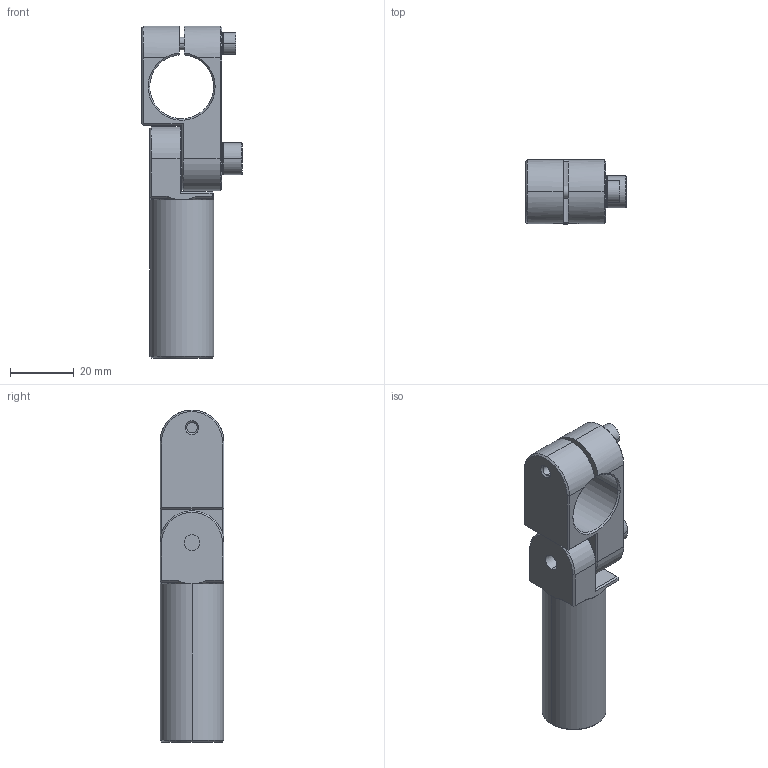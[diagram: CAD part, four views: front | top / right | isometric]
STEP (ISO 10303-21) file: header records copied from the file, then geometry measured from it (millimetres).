
FILE_DESCRIPTION (( 'STEP AP214' ), '1' );
FILE_NAME ('SEA-2020L50T.STEP', '2023-02-03T02:34:09', ( 'Windows User' ), ( 'P R C' ), 'SwSTEP 2.0', 'SolidWorks 2019', '' );
FILE_SCHEMA (( 'AUTOMOTIVE_DESIGN' ));
Length unit declared in the file: millimetre
Products named in the file (7): SEA-2020L50T; SEA-2020L50.1; SEA-2020L150.2; PTC-M6L16; PTS-M6; PTS-M4; PTC-M4L18
Assembly tree (6 placements, depth 2):
  SEA-2020L50T
    SEA-2020L150.2
    PTC-M6L16
    PTC-M4L18
    PTS-M6
    PTS-M4
    SEA-2020L50.1
Bounding box: 31.45 x 20 x 103.8 mm (x, y, z)
Volume: 25846.6 mm3; surface area: 14013.9 mm2
Topology: 6 solids, 6 shells, 470 faces, 1316 edges, 859 vertices
Faces by surface type: plane 388, cone 41, cylinder 37, bspline 4
Entity records: 16031 total; most frequent: CARTESIAN_POINT 3222, DIRECTION 2677, ORIENTED_EDGE 2632, EDGE_CURVE 1316, AXIS2_PLACEMENT_3D 918, VERTEX_POINT 859, LINE 841, VECTOR 841
